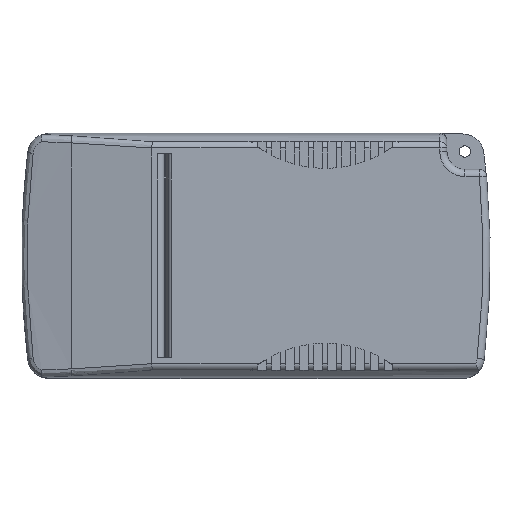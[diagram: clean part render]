
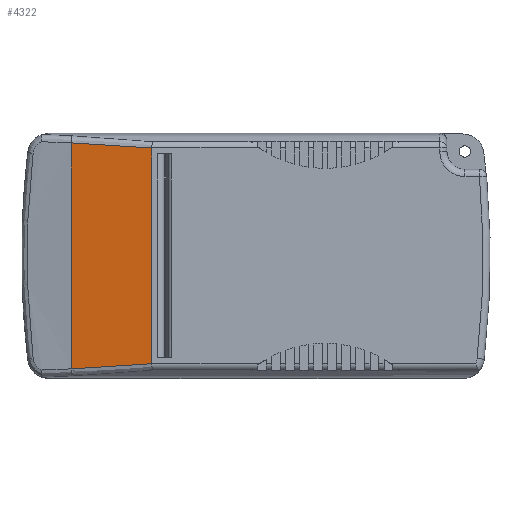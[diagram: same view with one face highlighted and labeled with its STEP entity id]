
A CAD part, top view. The second image highlights one B-rep face of the part: STEP entity #4322.
In plain terms, the highlighted planar face has unit normal (-0.139, 0, 0.99).
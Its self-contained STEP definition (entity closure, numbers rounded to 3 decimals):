
#749=CARTESIAN_POINT('',(-86.892,-58.941,28.));
#755=DIRECTION('',(0.,1.,0.));
#756=VECTOR('',#755,59.881);
#757=CARTESIAN_POINT('',(-86.892,-58.941,28.));
#758=LINE('',#757,#756);
#763=CARTESIAN_POINT('',(-86.892,0.941,28.));
#839=CARTESIAN_POINT('',(-109.302,-60.354,24.851));
#840=CARTESIAN_POINT('',(-107.997,-60.302,25.034));
#841=CARTESIAN_POINT('',(-105.368,-60.187,25.403));
#842=CARTESIAN_POINT('',(-101.432,-59.986,25.957));
#843=CARTESIAN_POINT('',(-97.306,-59.74,26.537));
#844=CARTESIAN_POINT('',(-93.446,-59.475,27.079));
#845=CARTESIAN_POINT('',(-89.996,-59.21,27.564));
#846=CARTESIAN_POINT('',(-87.89,-59.03,27.86));
#847=CARTESIAN_POINT('',(-86.892,-58.941,28.));
#849=DIRECTION('',(0.,-1.,0.));
#850=VECTOR('',#849,62.708);
#851=CARTESIAN_POINT('',(-109.302,2.354,24.851));
#852=LINE('',#851,#850);
#853=CARTESIAN_POINT('',(-86.892,0.941,28.));
#854=CARTESIAN_POINT('',(-88.317,1.068,27.8));
#855=CARTESIAN_POINT('',(-91.167,1.306,27.399));
#856=CARTESIAN_POINT('',(-95.515,1.623,26.788));
#857=CARTESIAN_POINT('',(-99.711,1.888,26.198));
#858=CARTESIAN_POINT('',(-104.141,2.13,25.576));
#859=CARTESIAN_POINT('',(-107.525,2.283,25.1));
#860=CARTESIAN_POINT('',(-109.302,2.354,24.851));
#3411=VERTEX_POINT('',#749);
#3415=VERTEX_POINT('',#839);
#3419=VERTEX_POINT('',#763);
#3420=VERTEX_POINT('',#860);
#4309=CARTESIAN_POINT('',(-109.302,46.,24.851));
#4310=DIRECTION('',(0.139,0.,-0.99));
#4311=DIRECTION('',(0.99,0.,0.139));
#4312=AXIS2_PLACEMENT_3D('',#4309,#4310,#4311);
#4313=PLANE('',#4312);
#4315=ORIENTED_EDGE('',*,*,#4314,.F.);
#4317=ORIENTED_EDGE('',*,*,#4316,.F.);
#4318=ORIENTED_EDGE('',*,*,#4299,.F.);
#4319=ORIENTED_EDGE('',*,*,#4128,.F.);
#4320=EDGE_LOOP('',(#4315,#4317,#4318,#4319));
#4321=FACE_OUTER_BOUND('',#4320,.F.);
#848=B_SPLINE_CURVE_WITH_KNOTS('',3,(#839,#840,#841,#842,#843,#844,#845,#846,
#847),.UNSPECIFIED.,.F.,.F.,(4,1,1,1,1,1,4),(0.,0.167,
0.333,0.5,0.667,0.833,1.),
.UNSPECIFIED.);
#861=B_SPLINE_CURVE_WITH_KNOTS('',3,(#853,#854,#855,#856,#857,#858,#859,#860),
.UNSPECIFIED.,.F.,.F.,(4,1,1,1,1,4),(0.,0.2,0.4,0.6,0.8,1.),
.UNSPECIFIED.);
#4128=EDGE_CURVE('',#3411,#3419,#758,.T.);
#4299=EDGE_CURVE('',#3419,#3420,#861,.T.);
#4314=EDGE_CURVE('',#3415,#3411,#848,.T.);
#4316=EDGE_CURVE('',#3420,#3415,#852,.T.);
#4322=ADVANCED_FACE('',(#4321),#4313,.F.);
